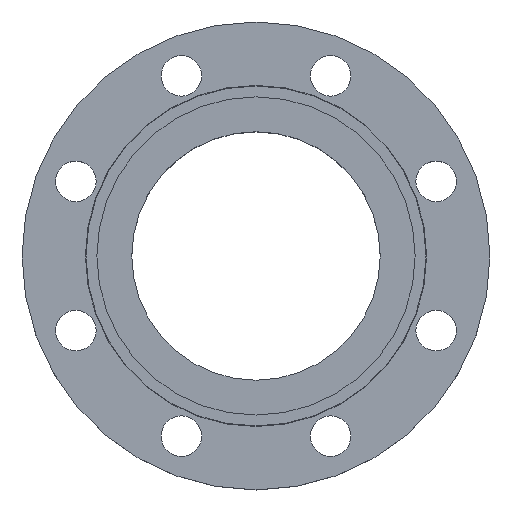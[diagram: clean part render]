
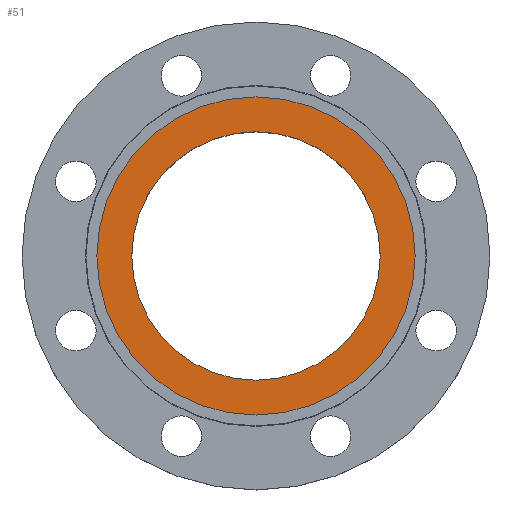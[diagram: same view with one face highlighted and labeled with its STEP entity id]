
A CAD part, top view. The second image highlights one B-rep face of the part: STEP entity #51.
In plain terms, the highlighted planar face has unit normal (0, 0, 1).
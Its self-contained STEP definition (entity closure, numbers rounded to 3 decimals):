
#8 = AXIS2_PLACEMENT_3D ( 'NONE', #266, #629, #918 ) ;
#17 = EDGE_LOOP ( 'NONE', ( #1066, #1067 ) ) ;
#33 = VERTEX_POINT ( 'NONE', #1160 ) ;
#51 = ADVANCED_FACE ( 'NONE', ( #374, #701 ), #1063, .T. ) ;
#86 = VERTEX_POINT ( 'NONE', #395 ) ;
#93 = DIRECTION ( 'NONE',  ( 0., 0., -1. ) ) ;
#138 = EDGE_LOOP ( 'NONE', ( #1059, #1061 ) ) ;
#160 = DIRECTION ( 'NONE',  ( 0., 0., -1. ) ) ;
#174 = DIRECTION ( 'NONE',  ( -1., 0., 0. ) ) ;
#193 = VERTEX_POINT ( 'NONE', #646 ) ;
#239 = CIRCLE ( 'NONE', #840, 79.65 ) ;
#254 = CIRCLE ( 'NONE', #854, 79.65 ) ;
#266 = CARTESIAN_POINT ( 'NONE',  ( 102., 0., -4.5 ) ) ;
#284 = VERTEX_POINT ( 'NONE', #875 ) ;
#314 = AXIS2_PLACEMENT_3D ( 'NONE', #636, #942, #174 ) ;
#374 = FACE_BOUND ( 'NONE', #138, .T. ) ;
#395 = CARTESIAN_POINT ( 'NONE',  ( -79.65, 0., -4.5 ) ) ;
#445 = CIRCLE ( 'NONE', #1075, 102. ) ;
#505 = DIRECTION ( 'NONE',  ( 1., 0., 0. ) ) ;
#557 = DIRECTION ( 'NONE',  ( -1., 0., 0. ) ) ;
#629 = DIRECTION ( 'NONE',  ( 0., 0., 1. ) ) ;
#636 = CARTESIAN_POINT ( 'NONE',  ( 0., 0., -4.5 ) ) ;
#646 = CARTESIAN_POINT ( 'NONE',  ( -102., 0., -4.5 ) ) ;
#671 = DIRECTION ( 'NONE',  ( 0., 0., -1. ) ) ;
#701 = FACE_OUTER_BOUND ( 'NONE', #17, .T. ) ;
#707 = EDGE_CURVE ( 'NONE', #86, #33, #254, .T. ) ;
#776 = CIRCLE ( 'NONE', #314, 102. ) ;
#840 = AXIS2_PLACEMENT_3D ( 'NONE', #878, #93, #505 ) ;
#854 = AXIS2_PLACEMENT_3D ( 'NONE', #879, #671, #1010 ) ;
#868 = EDGE_CURVE ( 'NONE', #193, #284, #445, .T. ) ;
#875 = CARTESIAN_POINT ( 'NONE',  ( 102., 0., -4.5 ) ) ;
#878 = CARTESIAN_POINT ( 'NONE',  ( 0., 0., -4.5 ) ) ;
#879 = CARTESIAN_POINT ( 'NONE',  ( 0., 0., -4.5 ) ) ;
#897 = EDGE_CURVE ( 'NONE', #284, #193, #776, .T. ) ;
#918 = DIRECTION ( 'NONE',  ( 1., 0., 0. ) ) ;
#923 = CARTESIAN_POINT ( 'NONE',  ( 0., 0., -4.5 ) ) ;
#942 = DIRECTION ( 'NONE',  ( 0., 0., -1. ) ) ;
#1010 = DIRECTION ( 'NONE',  ( 1., 0., 0. ) ) ;
#1059 = ORIENTED_EDGE ( 'NONE', *, *, #707, .T. ) ;
#1061 = ORIENTED_EDGE ( 'NONE', *, *, #1094, .T. ) ;
#1063 = PLANE ( 'NONE',  #8 ) ;
#1066 = ORIENTED_EDGE ( 'NONE', *, *, #868, .F. ) ;
#1067 = ORIENTED_EDGE ( 'NONE', *, *, #897, .F. ) ;
#1075 = AXIS2_PLACEMENT_3D ( 'NONE', #923, #160, #557 ) ;
#1094 = EDGE_CURVE ( 'NONE', #33, #86, #239, .T. ) ;
#1160 = CARTESIAN_POINT ( 'NONE',  ( 79.65, 0., -4.5 ) ) ;
